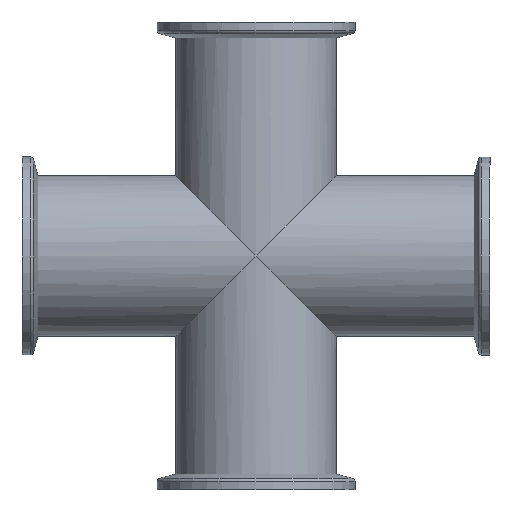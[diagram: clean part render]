
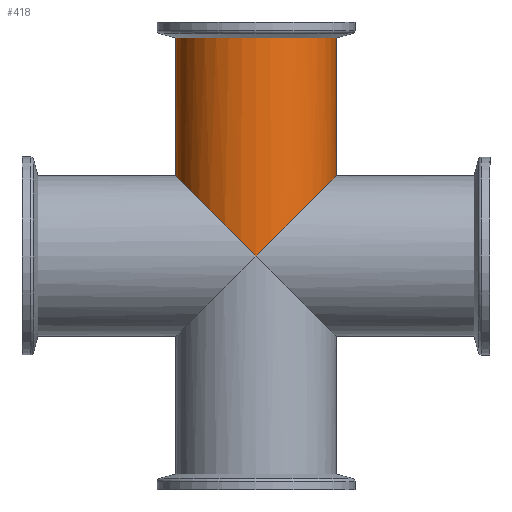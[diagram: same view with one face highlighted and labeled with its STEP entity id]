
A CAD part, front view. The second image highlights one B-rep face of the part: STEP entity #418.
In plain terms, the highlighted cylindrical face has radius 22.25 mm (diameter 44.5 mm), a partial arc.
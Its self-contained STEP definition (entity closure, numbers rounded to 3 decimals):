
#119 = CARTESIAN_POINT ( 'NONE',  ( 0., -22.25, -65. ) ) ;
#183 = LINE ( 'NONE', #1804, #689 ) ;
#249 = CARTESIAN_POINT ( 'NONE',  ( 0., -22.25, -65. ) ) ;
#257 = CARTESIAN_POINT ( 'NONE',  ( 22.25, 0., -3.5 ) ) ;
#333 = CARTESIAN_POINT ( 'NONE',  ( -22.25, -13.034, -42.75 ) ) ;
#399 = CARTESIAN_POINT ( 'NONE',  ( -22.25, 0., -189.433 ) ) ;
#418 = ADVANCED_FACE ( 'NONE', ( #1651 ), #2455, .T. ) ;
#436 = CIRCLE ( 'NONE', #2082, 22.25 ) ;
#458 = ORIENTED_EDGE ( 'NONE', *, *, #1905, .T. ) ;
#620 = DIRECTION ( 'NONE',  ( 0., 0., 1. ) ) ;
#658 = CARTESIAN_POINT ( 'NONE',  ( 22.25, -13.034, -42.75 ) ) ;
#689 = VECTOR ( 'NONE', #2612, 1000. ) ;
#722 = EDGE_CURVE ( 'NONE', #2475, #1233, #436, .T. ) ;
#1036 = CARTESIAN_POINT ( 'NONE',  ( 0., -22.25, -65. ) ) ;
#1142 = DIRECTION ( 'NONE',  ( 0., 0., -1. ) ) ;
#1205 = DIRECTION ( 'NONE',  ( 0., 0., 1. ) ) ;
#1230 = DIRECTION ( 'NONE',  ( 1., 0., 0. ) ) ;
#1233 = VERTEX_POINT ( 'NONE', #1983 ) ;
#1395 =( BOUNDED_CURVE ( )  B_SPLINE_CURVE ( 3, ( #249, #2032, #658, #1476 ),
 .UNSPECIFIED., .F., .T. ) 
 B_SPLINE_CURVE_WITH_KNOTS ( ( 4, 4 ),
 ( 4.712, 6.283 ),
 .UNSPECIFIED. ) 
 CURVE ( )  GEOMETRIC_REPRESENTATION_ITEM ( )  RATIONAL_B_SPLINE_CURVE ( ( 1., 0.805, 0.805, 1. ) ) 
 REPRESENTATION_ITEM ( '' )  );
#1414 = VECTOR ( 'NONE', #1205, 1000. ) ;
#1447 = CARTESIAN_POINT ( 'NONE',  ( 0., 0., -189.433 ) ) ;
#1471 = VERTEX_POINT ( 'NONE', #2362 ) ;
#1476 = CARTESIAN_POINT ( 'NONE',  ( 22.25, 0., -42.75 ) ) ;
#1539 = EDGE_CURVE ( 'NONE', #1471, #2475, #183, .T. ) ;
#1582 =( BOUNDED_CURVE ( )  B_SPLINE_CURVE ( 3, ( #119, #2199, #333, #2173 ),
 .UNSPECIFIED., .F., .T. ) 
 B_SPLINE_CURVE_WITH_KNOTS ( ( 4, 4 ),
 ( 4.712, 6.283 ),
 .UNSPECIFIED. ) 
 CURVE ( )  GEOMETRIC_REPRESENTATION_ITEM ( )  RATIONAL_B_SPLINE_CURVE ( ( 1., 0.805, 0.805, 1. ) ) 
 REPRESENTATION_ITEM ( '' )  );
#1651 = FACE_OUTER_BOUND ( 'NONE', #2089, .T. ) ;
#1735 = CARTESIAN_POINT ( 'NONE',  ( -22.25, 0., -42.75 ) ) ;
#1804 = CARTESIAN_POINT ( 'NONE',  ( 22.25, 0., -189.433 ) ) ;
#1856 = EDGE_CURVE ( 'NONE', #2041, #1233, #2216, .T. ) ;
#1905 = EDGE_CURVE ( 'NONE', #2307, #1471, #1395, .T. ) ;
#1983 = CARTESIAN_POINT ( 'NONE',  ( -22.25, 0., -3.5 ) ) ;
#2032 = CARTESIAN_POINT ( 'NONE',  ( 13.034, -22.25, -51.966 ) ) ;
#2041 = VERTEX_POINT ( 'NONE', #1735 ) ;
#2082 = AXIS2_PLACEMENT_3D ( 'NONE', #2369, #1142, #2360 ) ;
#2089 = EDGE_LOOP ( 'NONE', ( #2270, #2105, #458, #2249, #2238 ) ) ;
#2105 = ORIENTED_EDGE ( 'NONE', *, *, #2178, .F. ) ;
#2146 = AXIS2_PLACEMENT_3D ( 'NONE', #1447, #620, #1230 ) ;
#2173 = CARTESIAN_POINT ( 'NONE',  ( -22.25, 0., -42.75 ) ) ;
#2178 = EDGE_CURVE ( 'NONE', #2307, #2041, #1582, .T. ) ;
#2199 = CARTESIAN_POINT ( 'NONE',  ( -13.034, -22.25, -51.966 ) ) ;
#2216 = LINE ( 'NONE', #399, #1414 ) ;
#2238 = ORIENTED_EDGE ( 'NONE', *, *, #722, .T. ) ;
#2249 = ORIENTED_EDGE ( 'NONE', *, *, #1539, .T. ) ;
#2270 = ORIENTED_EDGE ( 'NONE', *, *, #1856, .F. ) ;
#2307 = VERTEX_POINT ( 'NONE', #1036 ) ;
#2360 = DIRECTION ( 'NONE',  ( -1., 0., 0. ) ) ;
#2362 = CARTESIAN_POINT ( 'NONE',  ( 22.25, 0., -42.75 ) ) ;
#2369 = CARTESIAN_POINT ( 'NONE',  ( 0., 0., -3.5 ) ) ;
#2455 = CYLINDRICAL_SURFACE ( 'NONE', #2146, 22.25 ) ;
#2475 = VERTEX_POINT ( 'NONE', #257 ) ;
#2612 = DIRECTION ( 'NONE',  ( 0., 0., 1. ) ) ;
